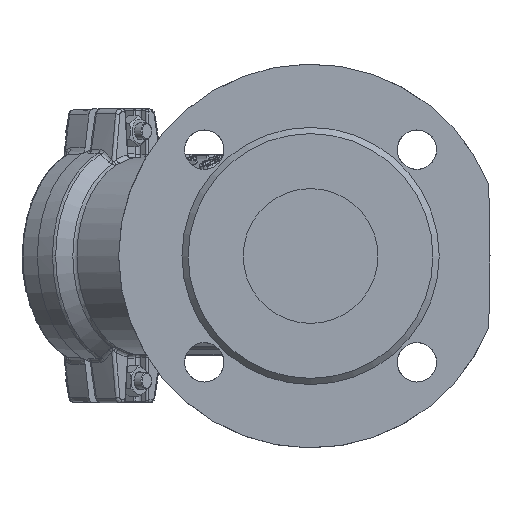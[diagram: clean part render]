
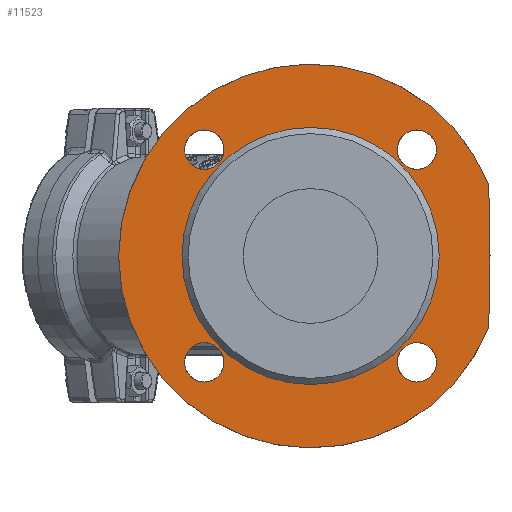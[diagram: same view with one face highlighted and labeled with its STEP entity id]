
A CAD part, left-side view. The second image highlights one B-rep face of the part: STEP entity #11523.
In plain terms, the highlighted planar face has unit normal (-1, 0, 0).
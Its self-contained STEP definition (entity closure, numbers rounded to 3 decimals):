
#954 = EDGE_CURVE ( 'NONE', #7984, #39494, #20765, .T. ) ;
#1055 = VERTEX_POINT ( 'NONE', #26454 ) ;
#4048 = CIRCLE ( 'NONE', #41873, 62. ) ;
#4296 = CARTESIAN_POINT ( 'NONE',  ( -127., -51.265, 51.265 ) ) ;
#5158 = EDGE_CURVE ( 'NONE', #37924, #37924, #4048, .T. ) ;
#5350 = FACE_BOUND ( 'NONE', #21796, .T. ) ;
#6333 = EDGE_LOOP ( 'NONE', ( #41566 ) ) ;
#7984 = VERTEX_POINT ( 'NONE', #8975 ) ;
#8884 = DIRECTION ( 'NONE',  ( -1., 0., 0. ) ) ;
#8975 = CARTESIAN_POINT ( 'NONE',  ( -127., -85.901, -34.311 ) ) ;
#9875 = VECTOR ( 'NONE', #14934, 1000. ) ;
#9974 = AXIS2_PLACEMENT_3D ( 'NONE', #42491, #36720, #25911 ) ;
#10399 = FACE_BOUND ( 'NONE', #22407, .T. ) ;
#11041 = EDGE_CURVE ( 'NONE', #16281, #16281, #35179, .T. ) ;
#11507 = EDGE_LOOP ( 'NONE', ( #64935 ) ) ;
#11523 = ADVANCED_FACE ( 'NONE', ( #56119, #30358, #36084, #41221, #10399, #5350 ), #61851, .F. ) ;
#11558 = CARTESIAN_POINT ( 'NONE',  ( -127., 0., 62. ) ) ;
#11742 = EDGE_LOOP ( 'NONE', ( #50720 ) ) ;
#12290 = ORIENTED_EDGE ( 'NONE', *, *, #53620, .F. ) ;
#14934 = DIRECTION ( 'NONE',  ( 0., -0.017, -1. ) ) ;
#15031 = DIRECTION ( 'NONE',  ( 0., -0.017, 1. ) ) ;
#15484 = EDGE_CURVE ( 'NONE', #62105, #7984, #49990, .T. ) ;
#16281 = VERTEX_POINT ( 'NONE', #58605 ) ;
#16545 = CIRCLE ( 'NONE', #51199, 9.5 ) ;
#17875 = CIRCLE ( 'NONE', #41715, 9.5 ) ;
#19697 = EDGE_CURVE ( 'NONE', #1055, #1055, #16545, .T. ) ;
#19789 = DIRECTION ( 'NONE',  ( -1., 0., 0. ) ) ;
#20612 = CARTESIAN_POINT ( 'NONE',  ( -127., 51.265, -51.265 ) ) ;
#20765 = LINE ( 'NONE', #41132, #34218 ) ;
#21796 = EDGE_LOOP ( 'NONE', ( #12290 ) ) ;
#22407 = EDGE_LOOP ( 'NONE', ( #27542 ) ) ;
#22878 = DIRECTION ( 'NONE',  ( 0., 0., 1. ) ) ;
#25911 = DIRECTION ( 'NONE',  ( 0., 0., 1. ) ) ;
#26454 = CARTESIAN_POINT ( 'NONE',  ( -127., -51.265, -60.765 ) ) ;
#27542 = ORIENTED_EDGE ( 'NONE', *, *, #19697, .T. ) ;
#27977 = CARTESIAN_POINT ( 'NONE',  ( -127., 51.265, 51.265 ) ) ;
#28100 = CARTESIAN_POINT ( 'NONE',  ( -127., -51.265, 60.765 ) ) ;
#28384 = DIRECTION ( 'NONE',  ( 1., 0., 0. ) ) ;
#28417 = CARTESIAN_POINT ( 'NONE',  ( -127., 51.265, -60.765 ) ) ;
#30358 = FACE_BOUND ( 'NONE', #11742, .T. ) ;
#32686 = ORIENTED_EDGE ( 'NONE', *, *, #62486, .F. ) ;
#34158 = DIRECTION ( 'NONE',  ( 0., 1., 0. ) ) ;
#34218 = VECTOR ( 'NONE', #15031, 1000. ) ;
#34583 = DIRECTION ( 'NONE',  ( 0., 0., -1. ) ) ;
#35179 = CIRCLE ( 'NONE', #64455, 9.5 ) ;
#36084 = FACE_BOUND ( 'NONE', #11507, .T. ) ;
#36178 = DIRECTION ( 'NONE',  ( 0., 0., -1. ) ) ;
#36519 = DIRECTION ( 'NONE',  ( -1., 0., 0. ) ) ;
#36720 = DIRECTION ( 'NONE',  ( -1., 0., 0. ) ) ;
#36906 = DIRECTION ( 'NONE',  ( 0., 0., 1. ) ) ;
#37924 = VERTEX_POINT ( 'NONE', #11558 ) ;
#39494 = VERTEX_POINT ( 'NONE', #44337 ) ;
#40775 = EDGE_LOOP ( 'NONE', ( #60014, #53625, #32686 ) ) ;
#41132 = CARTESIAN_POINT ( 'NONE',  ( -127., -86.493, -0.428 ) ) ;
#41221 = FACE_BOUND ( 'NONE', #6333, .T. ) ;
#41566 = ORIENTED_EDGE ( 'NONE', *, *, #5158, .F. ) ;
#41715 = AXIS2_PLACEMENT_3D ( 'NONE', #4296, #19789, #60483 ) ;
#41873 = AXIS2_PLACEMENT_3D ( 'NONE', #55304, #8884, #36906 ) ;
#42491 = CARTESIAN_POINT ( 'NONE',  ( -127., 0., 0. ) ) ;
#44337 = CARTESIAN_POINT ( 'NONE',  ( -127., -86.5, 0. ) ) ;
#44367 = CARTESIAN_POINT ( 'NONE',  ( -127., 62., 0. ) ) ;
#48719 = DIRECTION ( 'NONE',  ( 1., 0., 0. ) ) ;
#49522 = CIRCLE ( 'NONE', #66818, 9.5 ) ;
#49990 = CIRCLE ( 'NONE', #9974, 92.5 ) ;
#50103 = EDGE_CURVE ( 'NONE', #59619, #59619, #17875, .T. ) ;
#50720 = ORIENTED_EDGE ( 'NONE', *, *, #50103, .F. ) ;
#51199 = AXIS2_PLACEMENT_3D ( 'NONE', #55628, #55959, #34583 ) ;
#53368 = CARTESIAN_POINT ( 'NONE',  ( -127., -85.901, 34.311 ) ) ;
#53620 = EDGE_CURVE ( 'NONE', #59283, #59283, #49522, .T. ) ;
#53625 = ORIENTED_EDGE ( 'NONE', *, *, #954, .T. ) ;
#54780 = AXIS2_PLACEMENT_3D ( 'NONE', #44367, #28384, #34158 ) ;
#55304 = CARTESIAN_POINT ( 'NONE',  ( -127., 0., 0. ) ) ;
#55628 = CARTESIAN_POINT ( 'NONE',  ( -127., -51.265, -51.265 ) ) ;
#55959 = DIRECTION ( 'NONE',  ( 1., 0., 0. ) ) ;
#56119 = FACE_OUTER_BOUND ( 'NONE', #40775, .T. ) ;
#58605 = CARTESIAN_POINT ( 'NONE',  ( -127., 51.265, 60.765 ) ) ;
#59283 = VERTEX_POINT ( 'NONE', #28417 ) ;
#59619 = VERTEX_POINT ( 'NONE', #28100 ) ;
#60014 = ORIENTED_EDGE ( 'NONE', *, *, #15484, .T. ) ;
#60483 = DIRECTION ( 'NONE',  ( 0., 0., 1. ) ) ;
#61340 = CARTESIAN_POINT ( 'NONE',  ( -127., -86.493, 0.428 ) ) ;
#61667 = LINE ( 'NONE', #61340, #9875 ) ;
#61851 = PLANE ( 'NONE',  #54780 ) ;
#62105 = VERTEX_POINT ( 'NONE', #53368 ) ;
#62486 = EDGE_CURVE ( 'NONE', #62105, #39494, #61667, .T. ) ;
#64455 = AXIS2_PLACEMENT_3D ( 'NONE', #27977, #48719, #22878 ) ;
#64935 = ORIENTED_EDGE ( 'NONE', *, *, #11041, .T. ) ;
#66818 = AXIS2_PLACEMENT_3D ( 'NONE', #20612, #36519, #36178 ) ;
